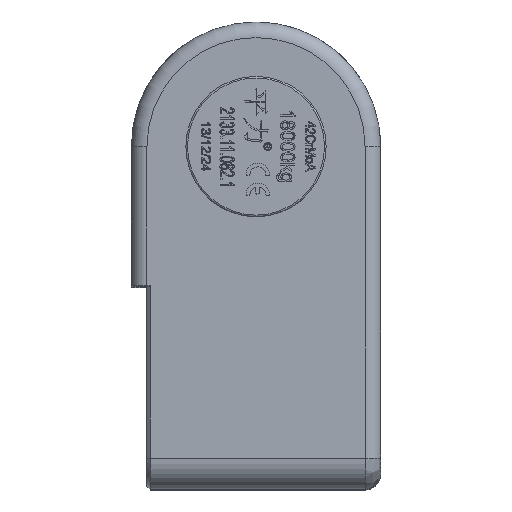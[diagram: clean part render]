
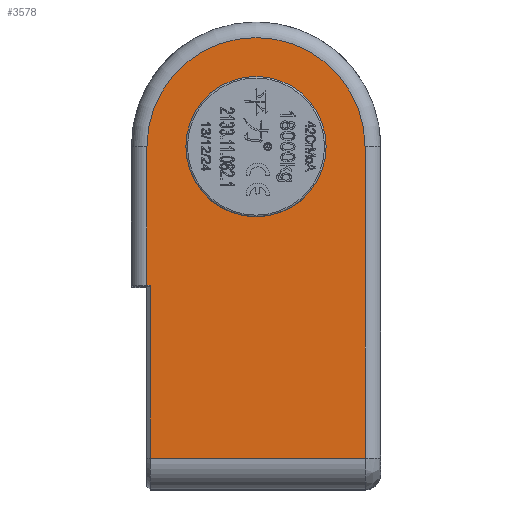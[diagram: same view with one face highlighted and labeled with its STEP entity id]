
A CAD part, top view. The second image highlights one B-rep face of the part: STEP entity #3578.
In plain terms, the highlighted planar face has unit normal (0, 0, 1).
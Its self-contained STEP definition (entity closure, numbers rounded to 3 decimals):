
#3578=ADVANCED_FACE('',(#5194,#5195),#4707,.F.);
#4707=PLANE('',#20798);
#5194=FACE_BOUND('',#5513,.T.);
#5195=FACE_BOUND('',#5514,.T.);
#5513=EDGE_LOOP('',(#7511,#7512,#7513,#7514,#7515,#7516));
#5514=EDGE_LOOP('',(#7517));
#6861=CIRCLE('',#20796,70.);
#6862=CIRCLE('',#20797,41.);
#7511=ORIENTED_EDGE('',*,*,#15208,.T.);
#7512=ORIENTED_EDGE('',*,*,#15209,.T.);
#7513=ORIENTED_EDGE('',*,*,#15210,.T.);
#7514=ORIENTED_EDGE('',*,*,#15211,.T.);
#7515=ORIENTED_EDGE('',*,*,#15212,.T.);
#7516=ORIENTED_EDGE('',*,*,#15213,.T.);
#7517=ORIENTED_EDGE('',*,*,#15214,.T.);
#13269=VERTEX_POINT('',#26927);
#13270=VERTEX_POINT('',#26928);
#13271=VERTEX_POINT('',#26930);
#13272=VERTEX_POINT('',#26932);
#13273=VERTEX_POINT('',#26934);
#13274=VERTEX_POINT('',#26936);
#13275=VERTEX_POINT('',#26939);
#15208=EDGE_CURVE('',#13269,#13270,#17859,.T.);
#15209=EDGE_CURVE('',#13270,#13271,#17860,.T.);
#15210=EDGE_CURVE('',#13271,#13272,#17861,.T.);
#15211=EDGE_CURVE('',#13272,#13273,#17862,.T.);
#15212=EDGE_CURVE('',#13273,#13274,#17863,.T.);
#15213=EDGE_CURVE('',#13274,#13269,#6861,.T.);
#15214=EDGE_CURVE('',#13275,#13275,#6862,.T.);
#17859=LINE('',#26926,#19140);
#17860=LINE('',#26929,#19141);
#17861=LINE('',#26931,#19142);
#17862=LINE('',#26933,#19143);
#17863=LINE('',#26935,#19144);
#19140=VECTOR('',#22011,1.);
#19141=VECTOR('',#22012,1.);
#19142=VECTOR('',#22013,1.);
#19143=VECTOR('',#22014,1.);
#19144=VECTOR('',#22015,1.);
#20796=AXIS2_PLACEMENT_3D('',#26937,#22016,#22017);
#20797=AXIS2_PLACEMENT_3D('',#26938,#22018,#22019);
#20798=AXIS2_PLACEMENT_3D('',#26940,#22020,#22021);
#22011=DIRECTION('',(0.,-1.,0.));
#22012=DIRECTION('',(1.,0.,0.));
#22013=DIRECTION('',(0.,-1.,0.));
#22014=DIRECTION('',(1.,0.,0.));
#22015=DIRECTION('',(0.,1.,0.));
#22016=DIRECTION('',(0.,0.,1.));
#22017=DIRECTION('',(-1.,0.,0.));
#22018=DIRECTION('',(0.,0.,-1.));
#22019=DIRECTION('',(-1.,0.,0.));
#22020=DIRECTION('',(0.,0.,-1.));
#22021=DIRECTION('',(-1.,0.,0.));
#26926=CARTESIAN_POINT('',(-70.,300.,0.));
#26927=CARTESIAN_POINT('',(-70.,220.,0.));
#26928=CARTESIAN_POINT('',(-70.,131.,0.));
#26929=CARTESIAN_POINT('',(-68.,131.,0.));
#26930=CARTESIAN_POINT('',(-68.,131.,0.));
#26931=CARTESIAN_POINT('',(-68.,300.,0.));
#26932=CARTESIAN_POINT('',(-68.,20.,0.));
#26933=CARTESIAN_POINT('',(80.,20.,0.));
#26934=CARTESIAN_POINT('',(70.,20.,0.));
#26935=CARTESIAN_POINT('',(70.,220.,0.));
#26936=CARTESIAN_POINT('',(70.,220.,0.));
#26937=CARTESIAN_POINT('',(0.,220.,0.));
#26938=CARTESIAN_POINT('',(0.,220.,0.));
#26939=CARTESIAN_POINT('',(-41.,220.,0.));
#26940=CARTESIAN_POINT('',(80.,300.,0.));
